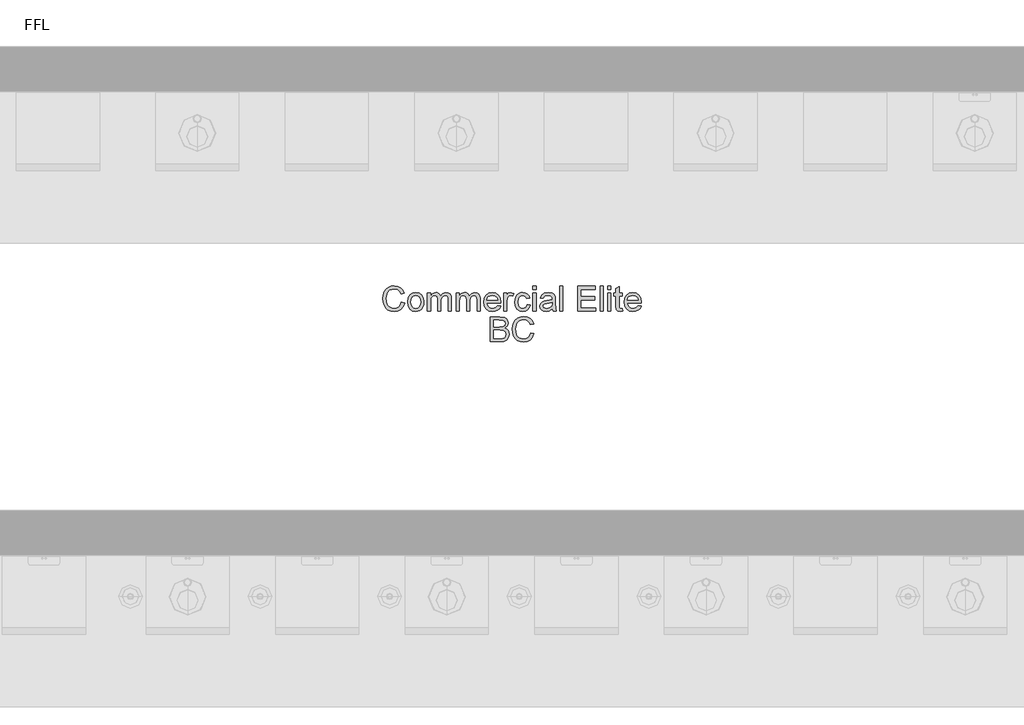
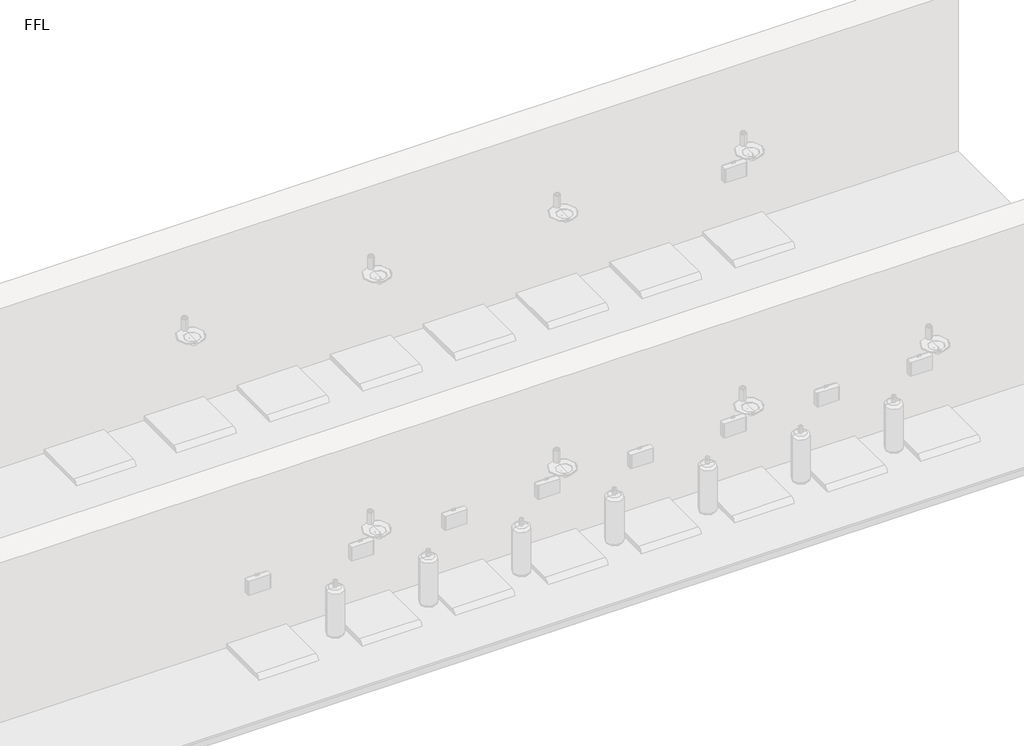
# One storey, part 13 of 13: 1 proxy.
"""IFC4 building model written with IfcOpenShell, lengths in millimetres."""

from ifc_helpers import new_model, si_unit, origin, origin_with_axes, place, context, project, spatial, polyline, outline, extrude, element, save

model = new_model("IFC4")

# Units and contexts
model_context = context("Model", 3, world=origin())
ifc_project = project(units=[si_unit("LENGTHUNIT", "METRE", prefix="MILLI")], contexts=[model_context])

# Site, building, storey
site = spatial("IfcSite", under=ifc_project)
building = spatial("IfcBuilding", under=site)
storey = spatial("IfcBuildingStorey", under=building, Name="FFL", Elevation=0.0)

# Proxy
placement = place(None, origin())
element("IfcBuildingElementProxy", 1, Name="150mm Arial", ObjectType="150mm Arial", at=placement, inside=storey, context=model_context, shape_type="SweptSolid", body=[
    extrude(outline(polyline([(15499.8800917, 6596.3018309), (15518.3416302, 6591.5422155), (15509.8230004, 6570.0292948), (15496.454611, 6554.3126482), (15478.8945148, 6544.698766), (15457.8007648, 6541.4941386), (15436.3870028, 6543.9190184), (15419.3812937, 6551.1936578), (15406.3464379, 6563.065653), (15396.845236, 6579.2826001), (15391.0444547, 6598.3481049), (15389.110861, 6618.7657732), (15391.2968586, 6640.3012299), (15397.8548514, 6658.8979847), (15408.4422913, 6673.9655929), (15422.7166302, 6684.9136097), (15439.6457167, 6691.5797756), (15458.1973994, 6693.8018309), (15478.4392865, 6690.9262299), (15495.1745629, 6682.299427), (15507.8803922, 6668.4532732), (15516.0339379, 6649.9196193), (15497.5723994, 6645.5205809), (15491.1721591, 6658.9836217), (15482.4281687, 6668.2188982), (15471.2322552, 6673.5599439), (15457.4762456, 6675.3402924), (15441.6198754, 6673.3661338), (15428.5940341, 6667.4436578), (15418.7097191, 6658.1948597), (15412.2779283, 6646.2417347), (15407.5723994, 6618.8018309), (15413.1433129, 6586.9989463), (15420.2647071, 6575.1224439), (15430.4870629, 6566.6804367), (15442.7421711, 6561.6368669), (15455.9618225, 6559.955677), (15471.3719788, 6562.2453405), (15484.2130244, 6569.1143309), (15493.9080365, 6580.4905328), (15499.8800917, 6596.3018309)])), origin_with_axes(), (0.0, 0.0, 1.0), 5.0),
    extrude(outline(polyline([(15536.8031687, 6598.0326001), (15540.7965581, 6624.1834415), (15552.7767264, 6642.5638501), (15567.5784091, 6651.5692588), (15585.3007648, 6654.5710617), (15604.6952961, 6650.9157131), (15620.1865821, 6639.9496674), (15630.3413297, 6622.5383092), (15633.7262456, 6599.5470232), (15632.2298514, 6580.8961818), (15627.7406687, 6566.6984655), (15620.3894066, 6556.0659535), (15610.3067744, 6548.1107251), (15598.3311134, 6543.1482852), (15585.3007648, 6541.4941386), (15565.6718586, 6545.1359655), (15550.1986014, 6556.0614463), (15540.1520268, 6573.8378886), (15536.8031687, 6598.0326001)]), holes=[polyline([(15555.2647071, 6598.0686578), (15557.4011254, 6581.3604246), (15563.8103802, 6569.456879), (15573.4558129, 6562.3309775), (15585.3007648, 6559.955677), (15597.0916302, 6562.3444992), (15606.7190341, 6569.5109655), (15613.1282889, 6581.5722636), (15615.2647071, 6598.6455809), (15613.1147672, 6614.8670352), (15606.6649475, 6626.6083213), (15597.024022, 6633.7342227), (15585.3007648, 6636.1095232), (15573.4558129, 6633.7432371), (15563.8103802, 6626.644379), (15557.4011254, 6614.7678766), (15555.2647071, 6598.0686578)])]), origin_with_axes(), (0.0, 0.0, 1.0), 5.0),
    extrude(outline(polyline([(15654.4954764, 6543.8018309), (15654.4954764, 6652.2633693), (15672.9570148, 6652.2633693), (15672.9570148, 6634.4148117), (15685.6493225, 6649.0362059), (15703.7142264, 6654.5710617), (15713.9816542, 6653.1603044), (15722.2118225, 6648.9280328), (15732.3800917, 6633.1167347), (15746.7851398, 6649.2074799), (15764.9762456, 6654.5710617), (15778.8539499, 6652.3399919), (15789.1168706, 6645.6467828), (15795.4585172, 6634.3111458), (15797.5723994, 6618.1527924), (15797.5723994, 6543.8018309), (15779.110861, 6543.8018309), (15779.110861, 6610.2201001), (15777.3981206, 6625.6347636), (15771.1961975, 6633.2249078), (15760.6493225, 6636.1095232), (15750.6478201, 6634.2615665), (15742.4942744, 6628.7176963), (15737.072099, 6619.0993068), (15735.2647071, 6605.0277924), (15735.2647071, 6543.8018309), (15716.8031687, 6543.8018309), (15716.8031687, 6612.2753886), (15712.5303321, 6630.160004), (15706.8918105, 6634.6221434), (15698.5219187, 6636.1095232), (15684.8560533, 6632.143177), (15675.7695148, 6620.5326001), (15672.9570148, 6598.5013501), (15672.9570148, 6543.8018309), (15654.4954764, 6543.8018309)])), origin_with_axes(), (0.0, 0.0, 1.0), 5.0),
    extrude(outline(polyline([(15825.2647071, 6543.8018309), (15825.2647071, 6652.2633693), (15843.7262456, 6652.2633693), (15843.7262456, 6634.4148117), (15856.4185533, 6649.0362059), (15874.4834571, 6654.5710617), (15884.750885, 6653.1603044), (15892.9810533, 6648.9280328), (15903.1493225, 6633.1167347), (15917.5543706, 6649.2074799), (15935.7454764, 6654.5710617), (15949.6231807, 6652.3399919), (15959.8861014, 6645.6467828), (15966.227748, 6634.3111458), (15968.3416302, 6618.1527924), (15968.3416302, 6543.8018309), (15949.8800917, 6543.8018309), (15949.8800917, 6610.2201001), (15948.1673514, 6625.6347636), (15941.9654283, 6633.2249078), (15931.4185533, 6636.1095232), (15921.4170509, 6634.2615665), (15913.2635052, 6628.7176963), (15907.8413297, 6619.0993068), (15906.0339379, 6605.0277924), (15906.0339379, 6543.8018309), (15887.5723994, 6543.8018309), (15887.5723994, 6612.2753886), (15883.2995629, 6630.160004), (15877.6610413, 6634.6221434), (15869.2911494, 6636.1095232), (15855.6252841, 6632.143177), (15846.5387456, 6620.5326001), (15843.7262456, 6598.5013501), (15843.7262456, 6543.8018309), (15825.2647071, 6543.8018309)])), origin_with_axes(), (0.0, 0.0, 1.0), 5.0),
    extrude(outline(polyline([(16071.9714379, 6576.1095232), (16090.0723994, 6573.8018309), (16083.5504643, 6560.1630088), (16073.1433129, 6549.9676963), (16059.0853201, 6543.612528), (16041.610861, 6541.4941386), (16019.9492023, 6545.1494871), (16003.2815341, 6556.1155328), (15992.6535292, 6573.6801362), (15989.110861, 6597.1311578), (15992.6895869, 6621.3709415), (16003.4257648, 6639.4989463), (16019.8680725, 6650.8030328), (16040.5651879, 6654.5710617), (16060.617772, 6650.8120472), (16076.6409091, 6639.535004), (16087.1472191, 6621.4430568), (16090.6493225, 6597.2393309), (16090.5411494, 6592.2633693), (16007.5723994, 6592.2633693), (16010.7680124, 6578.4442588), (16018.1913898, 6568.285004), (16028.9050316, 6562.0380088), (16041.9714379, 6559.955677), (16060.0723994, 6563.8138501), (16071.9714379, 6576.1095232)]), holes=[polyline([(16007.5723994, 6610.7249078), (16072.1877841, 6610.7249078), (16069.6907889, 6620.4785136), (16064.7959571, 6627.455677), (16054.032736, 6633.9460617), (16040.4930725, 6636.1095232), (16028.0486615, 6634.3832612), (16017.7586975, 6629.2044751), (16010.6057528, 6621.1320592), (16007.5723994, 6610.7249078)])]), origin_with_axes(), (0.0, 0.0, 1.0), 5.0),
    extrude(outline(polyline([(16109.110861, 6543.8018309), (16109.110861, 6652.2633693), (16125.2647071, 6652.2633693), (16125.2647071, 6636.2176963), (16136.7310533, 6651.0013501), (16148.2695148, 6654.5710617), (16166.8031687, 6648.8739463), (16160.6373033, 6632.3234655), (16147.6565341, 6636.1095232), (16137.2178321, 6632.4676963), (16130.5651879, 6622.3715424), (16127.5723994, 6600.8090424), (16127.5723994, 6543.8018309), (16109.110861, 6543.8018309)])), origin_with_axes(), (0.0, 0.0, 1.0), 5.0),
    extrude(outline(polyline([(16247.5723994, 6583.0326001), (16266.0339379, 6580.7249078), (16260.8867023, 6564.3051362), (16251.2142264, 6551.8967828), (16237.9269667, 6544.0947996), (16221.9353802, 6541.4941386), (16202.2974595, 6545.1224439), (16186.9413898, 6556.0073597), (16177.0300316, 6573.6711217), (16173.7262456, 6597.6359655), (16179.3692744, 6628.3030328), (16186.4906687, 6639.8009294), (16196.5687937, 6648.0085617), (16208.6255845, 6652.9304367), (16221.6829764, 6654.5710617), (16237.2824355, 6652.3174559), (16249.7538898, 6645.5566386), (16258.7007047, 6634.6491867), (16263.7262456, 6619.955677), (16245.2647071, 6617.6479847), (16236.7010052, 6631.4761097), (16221.8272071, 6636.1095232), (16209.8966182, 6633.8288742), (16200.4269667, 6626.986927), (16194.2475797, 6615.2140905), (16192.1877841, 6598.1407732), (16194.2025076, 6580.8375881), (16200.2466783, 6569.0241867), (16209.5450557, 6562.2228044), (16221.3223994, 6559.955677), (16230.8821951, 6561.3709415), (16238.720236, 6565.6167347), (16244.4218586, 6572.8012299), (16247.5723994, 6583.0326001)])), origin_with_axes(), (0.0, 0.0, 1.0), 5.0),
    extrude(outline(polyline([(16282.1877841, 6673.0326001), (16282.1877841, 6691.4941386), (16300.6493225, 6691.4941386), (16300.6493225, 6673.0326001), (16282.1877841, 6673.0326001)])), origin_with_axes(), (0.0, 0.0, 1.0), 5.0),
    extrude(outline(polyline([(16282.1877841, 6543.8018309), (16282.1877841, 6652.2633693), (16300.6493225, 6652.2633693), (16300.6493225, 6543.8018309), (16282.1877841, 6543.8018309)])), origin_with_axes(), (0.0, 0.0, 1.0), 5.0),
    extrude(outline(polyline([(16397.5723994, 6557.6479847), (16379.6697552, 6545.1359655), (16359.892111, 6541.4941386), (16344.4639259, 6543.6846434), (16333.0832167, 6550.2561578), (16326.0654884, 6560.2351242), (16323.7262456, 6572.6479847), (16327.2598994, 6587.2513501), (16336.5447552, 6597.8523117), (16349.4714379, 6603.910004), (16365.4449956, 6606.6864463), (16397.4642264, 6613.0326001), (16397.5723994, 6617.143177), (16396.3013658, 6625.3823597), (16392.4882648, 6630.7729847), (16383.9606206, 6634.7753886), (16372.079611, 6636.1095232), (16353.4017264, 6632.5578405), (16344.4954764, 6619.955677), (16326.0339379, 6622.2633693), (16334.0207167, 6640.2922155), (16350.1024475, 6650.8571193), (16374.4594187, 6654.5710617), (16396.8332167, 6651.2898117), (16409.4714379, 6643.050629), (16415.1324956, 6630.5205809), (16416.0339379, 6614.3667347), (16416.0339379, 6591.3979847), (16416.9714379, 6559.3246674), (16420.6493225, 6543.8018309), (16402.1877841, 6543.8018309), (16397.5723994, 6557.6479847)]), holes=[polyline([(16397.5723994, 6594.5710617), (16367.7887456, 6588.910004), (16351.9053321, 6585.9172155), (16344.7118225, 6581.049427), (16342.1877841, 6573.9460617), (16347.6865821, 6563.9580809), (16363.8223994, 6559.955677), (16382.5002841, 6564.3727443), (16394.5435533, 6575.0638501), (16397.4642264, 6589.3426963), (16397.5723994, 6594.5710617)])]), origin_with_axes(), (0.0, 0.0, 1.0), 5.0),
    extrude(outline(polyline([(16441.4185533, 6543.8018309), (16441.4185533, 6691.4941386), (16459.8800917, 6691.4941386), (16459.8800917, 6543.8018309), (16441.4185533, 6543.8018309)])), origin_with_axes(), (0.0, 0.0, 1.0), 5.0),
    extrude(outline(polyline([(16547.5723994, 6543.8018309), (16547.5723994, 6691.4941386), (16653.7262456, 6691.4941386), (16653.7262456, 6673.0326001), (16566.0339379, 6673.0326001), (16566.0339379, 6629.1864463), (16649.110861, 6629.1864463), (16649.110861, 6610.7249078), (16566.0339379, 6610.7249078), (16566.0339379, 6562.2633693), (16656.0339379, 6562.2633693), (16656.0339379, 6543.8018309), (16547.5723994, 6543.8018309)])), origin_with_axes(), (0.0, 0.0, 1.0), 5.0),
    extrude(outline(polyline([(16681.4185533, 6543.8018309), (16681.4185533, 6691.4941386), (16699.8800917, 6691.4941386), (16699.8800917, 6543.8018309), (16681.4185533, 6543.8018309)])), origin_with_axes(), (0.0, 0.0, 1.0), 5.0),
    extrude(outline(polyline([(16727.5723994, 6543.8018309), (16727.5723994, 6652.2633693), (16746.0339379, 6652.2633693), (16746.0339379, 6543.8018309), (16727.5723994, 6543.8018309)])), origin_with_axes(), (0.0, 0.0, 1.0), 5.0),
    extrude(outline(polyline([(16727.5723994, 6673.0326001), (16727.5723994, 6691.4941386), (16746.0339379, 6691.4941386), (16746.0339379, 6673.0326001), (16727.5723994, 6673.0326001)])), origin_with_axes(), (0.0, 0.0, 1.0), 5.0),
    extrude(outline(polyline([(16812.9570148, 6559.1984655), (16815.2647071, 6543.2609655), (16801.454611, 6541.4941386), (16785.985861, 6544.5590424), (16778.2695148, 6552.5999078), (16776.0339379, 6573.549427), (16776.0339379, 6633.8018309), (16762.1877841, 6633.8018309), (16762.1877841, 6652.2633693), (16776.0339379, 6652.2633693), (16776.0339379, 6678.6215424), (16794.4954764, 6689.4749078), (16794.4954764, 6652.2633693), (16812.9570148, 6652.2633693), (16812.9570148, 6633.8018309), (16794.4954764, 6633.8018309), (16794.4954764, 6574.0902924), (16795.4690341, 6564.5710617), (16798.6240821, 6561.1996674), (16804.9161494, 6559.955677), (16812.9570148, 6559.1984655)])), origin_with_axes(), (0.0, 0.0, 1.0), 5.0),
    extrude(outline(polyline([(16907.3560533, 6576.1095232), (16925.4570148, 6573.8018309), (16918.9350797, 6560.1630088), (16908.5279283, 6549.9676963), (16894.4699355, 6543.612528), (16876.9954764, 6541.4941386), (16855.3338177, 6545.1494871), (16838.6661494, 6556.1155328), (16828.0381446, 6573.6801362), (16824.4954764, 6597.1311578), (16828.0742023, 6621.3709415), (16838.8103802, 6639.4989463), (16855.2526879, 6650.8030328), (16875.9498033, 6654.5710617), (16896.0023874, 6650.8120472), (16912.0255244, 6639.535004), (16922.5318345, 6621.4430568), (16926.0339379, 6597.2393309), (16925.9257648, 6592.2633693), (16842.9570148, 6592.2633693), (16846.1526278, 6578.4442588), (16853.5760052, 6568.285004), (16864.289647, 6562.0380088), (16877.3560533, 6559.955677), (16895.4570148, 6563.8138501), (16907.3560533, 6576.1095232)]), holes=[polyline([(16842.9570148, 6610.7249078), (16907.5723994, 6610.7249078), (16905.0754042, 6620.4785136), (16900.1805725, 6627.455677), (16889.4173514, 6633.9460617), (16875.8776879, 6636.1095232), (16863.4332768, 6634.3832612), (16853.1433129, 6629.2044751), (16845.9903682, 6621.1320592), (16842.9570148, 6610.7249078)])]), origin_with_axes(), (0.0, 0.0, 1.0), 5.0),
    extrude(outline(polyline([(16029.4954764, 6361.4941386), (16029.4954764, 6509.1864463), (16085.8536494, 6509.1864463), (16113.4558129, 6504.8414943), (16122.7316542, 6499.3291746), (16129.7538898, 6491.4821193), (16135.6493225, 6472.5878886), (16130.6913898, 6455.3342828), (16115.7094187, 6442.2633693), (16126.1706566, 6436.800629), (16133.9005244, 6428.4893309), (16138.6736615, 6417.8793549), (16140.2647071, 6405.5205809), (16135.9197552, 6385.6708213), (16125.1565341, 6371.5362059), (16109.0928321, 6364.0362059), (16085.4209571, 6361.4941386), (16029.4954764, 6361.4941386)]), holes=[polyline([(16047.9570148, 6379.955677), (16085.8175917, 6379.955677), (16099.5195148, 6380.6768309), (16111.1120629, 6384.6972636), (16118.7923514, 6392.9003886), (16121.8031687, 6405.3402924), (16118.2695148, 6419.691254), (16106.8211975, 6428.2549559), (16084.0147071, 6430.7249078), (16047.9570148, 6430.7249078), (16047.9570148, 6379.955677)]), polyline([(16047.9570148, 6449.1864463), (16081.6709571, 6449.1864463), (16101.3584571, 6450.7729847), (16113.2034091, 6457.6059174), (16117.1877841, 6469.6311578), (16113.4738417, 6481.674427), (16102.8368225, 6488.7958213), (16079.110861, 6490.7249078), (16047.9570148, 6490.7249078), (16047.9570148, 6449.1864463)])]), origin_with_axes(), (0.0, 0.0, 1.0), 5.0),
    extrude(outline(polyline([(16269.4954764, 6413.9941386), (16287.9570148, 6409.2345232), (16279.438385, 6387.7216025), (16266.0699956, 6372.0049559), (16248.5098994, 6362.3910737), (16227.4161494, 6359.1864463), (16206.0023874, 6361.6113261), (16188.9966783, 6368.8859655), (16175.9618225, 6380.7579607), (16166.4606206, 6396.9749078), (16160.6598393, 6416.0404126), (16158.7262456, 6436.4580809), (16160.9122432, 6457.9935376), (16167.470236, 6476.5902924), (16178.0576759, 6491.6579006), (16192.3320148, 6502.6059174), (16209.2611014, 6509.2720833), (16227.8127841, 6511.4941386), (16248.0546711, 6508.6185376), (16264.7899475, 6499.9917347), (16277.4957768, 6486.1455809), (16285.6493225, 6467.611927), (16267.1877841, 6463.2128886), (16260.7875437, 6476.6759294), (16252.0435533, 6485.9112059), (16240.8476398, 6491.2522516), (16227.0916302, 6493.0326001), (16211.23526, 6491.0584415), (16198.2094187, 6485.1359655), (16188.3251038, 6475.8871674), (16181.8933129, 6463.9340424), (16177.1877841, 6436.4941386), (16182.7586975, 6404.691254), (16189.8800917, 6392.8147516), (16200.1024475, 6384.3727443), (16212.3575557, 6379.3291746), (16225.5772071, 6377.6479847), (16240.9873634, 6379.9376482), (16253.8284091, 6386.8066386), (16263.5234211, 6398.1828405), (16269.4954764, 6413.9941386)])), origin_with_axes(), (0.0, 0.0, 1.0), 5.0),
])

save(model, "model.ifc")
